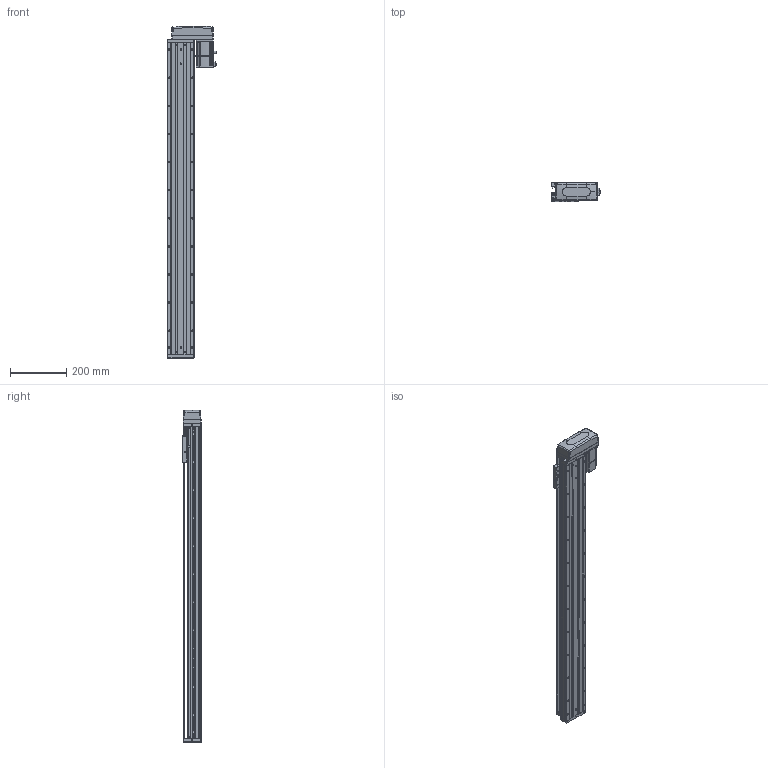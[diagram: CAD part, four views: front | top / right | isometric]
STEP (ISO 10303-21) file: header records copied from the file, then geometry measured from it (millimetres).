
FILE_DESCRIPTION (( 'STEP AP203' ), '1' );
FILE_NAME ('KTHA100-950-BL-M20-C4L.step', '2022-04-26T01:50:36', ( '微软用户' ), ( '微软中国' ), 'SwSTEP 2.0', 'SolidWorks 2020', '' );
FILE_SCHEMA (( 'CONFIG_CONTROL_DESIGN' ));
Length unit declared in the file: millimetre
Products named in the file (17): KTHA100-950-BL-M20-C4L; KTHA100-005; GBT70.1 M5℅16; GB¨uT 70.2-M3¡Á5_M3¡Á6; CTHA60-016; EE_SX911P_R; GBT 70.3-M3℅6; CTHA60-017; _X2_4E0983F1_X0_200W_1; KTHA100-001_1110; CTHA60-021; CTHA86-015-1_CTHA86-015-2; KTHA100-002; GBT77-2000 M3×3; CTHA86-033; KTHA100-004; GBT 70.1-M3℅6
Assembly tree (57 placements, depth 2):
  KTHA100-950-BL-M20-C4L
    KTHA100-001_1110
    KTHA100-002
    KTHA100-004
    KTHA100-005
    GB¨uT 70.2-M3¡Á5_M3¡Á6  x6
    EE_SX911P_R  x3
    CTHA60-017  x3
    CTHA60-021  x2
    GBT77-2000 M3×3  x6
    GBT 70.1-M3℅6  x10
    GBT70.1 M5℅16  x14
    CTHA60-016  x2
    GBT 70.3-M3℅6  x4
    _X2_4E0983F1_X0_200W_1
    CTHA86-015-1_CTHA86-015-2
    CTHA86-033
Bounding box: 177.7 x 68 x 1181 mm (x, y, z)
Volume: 4939156 mm3; surface area: 799734.5 mm2
Topology: 60 solids, 60 shells, 2517 faces, 6057 edges, 3760 vertices
Faces by surface type: plane 1292, cylinder 701, cone 317, torus 116, bspline 75, sphere 16
Entity records: 44532 total; most frequent: CARTESIAN_POINT 8896, DIRECTION 6932, ORIENTED_EDGE 6726, EDGE_CURVE 3363, AXIS2_PLACEMENT_3D 2404, VECTOR 2124, LINE 2124, VERTEX_POINT 2120
